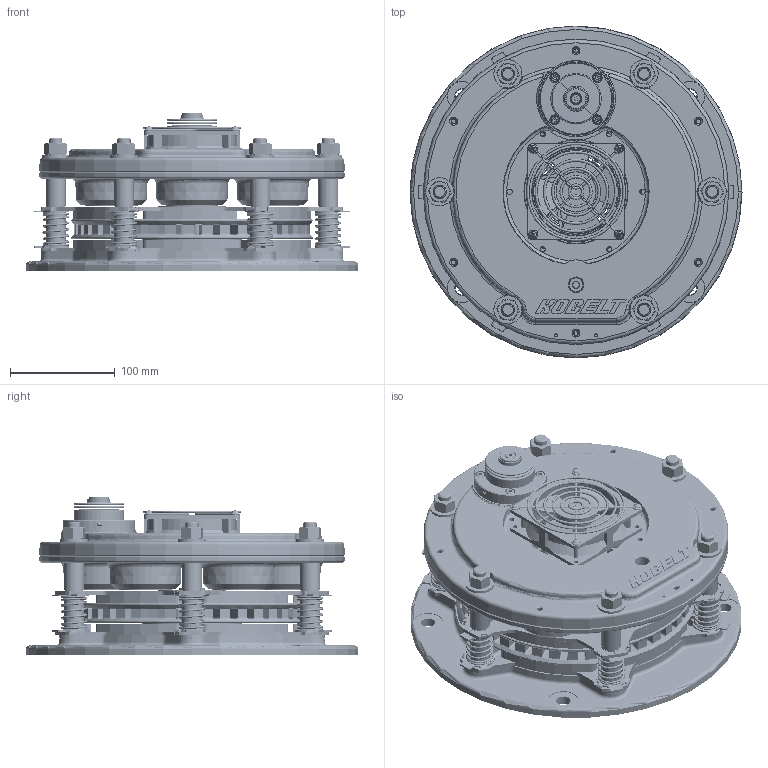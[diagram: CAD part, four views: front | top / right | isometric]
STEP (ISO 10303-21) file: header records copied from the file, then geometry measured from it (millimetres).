
FILE_DESCRIPTION (( 'STEP AP214' ), '1' );
FILE_NAME ('5409-A-E-F.STEP', '2021-06-16T18:42:51', ( '' ), ( '' ), 'SwSTEP 2.0', 'SolidWorks 2021', '' );
FILE_SCHEMA (( 'AUTOMOTIVE_DESIGN' ));
Length unit declared in the file: inch
Products named in the file (1): 5409-A-E-F
Bounding box: 317.22 x 317.22 x 151.69 mm (x, y, z)
Surface area: 817223.1 mm2 (no closed solid volume)
Topology: 0 solids, 140 shells, 2378 faces, 8235 edges, 5676 vertices
Faces by surface type: plane 965, cylinder 735, cone 326, bspline 174, torus 170, sphere 8
Entity records: 153402 total; most frequent: CARTESIAN_POINT 53585, DIRECTION 14269, ORIENTED_EDGE 13523, EDGE_CURVE 8215, VERTEX_POINT 5676, AXIS2_PLACEMENT_3D 5304, LINE 3661, VECTOR 3661
